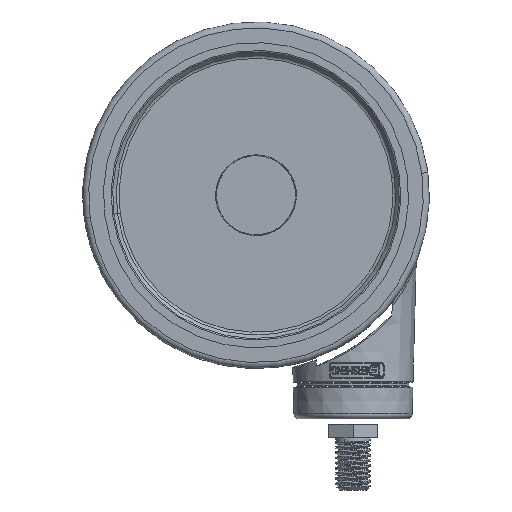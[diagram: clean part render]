
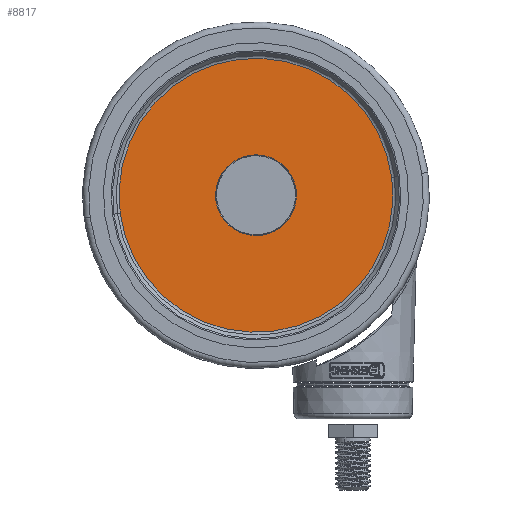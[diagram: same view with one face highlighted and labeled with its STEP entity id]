
A CAD part, front view. The second image highlights one B-rep face of the part: STEP entity #8817.
In plain terms, the highlighted planar face has unit normal (0, -1, 0).
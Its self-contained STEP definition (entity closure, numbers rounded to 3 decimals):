
#8591=CARTESIAN_POINT('',(0.,-28.25,0.));
#8592=DIRECTION('',(0.,1.,0.));
#8593=DIRECTION('',(-0.991,0.,-0.131));
#8594=AXIS2_PLACEMENT_3D('',#8591,#8592,#8593);
#8596=CARTESIAN_POINT('',(0.,-28.25,0.));
#8597=DIRECTION('',(0.,1.,0.));
#8598=DIRECTION('',(0.991,0.,0.131));
#8599=AXIS2_PLACEMENT_3D('',#8596,#8597,#8598);
#8601=CARTESIAN_POINT('',(0.,-28.25,0.));
#8602=DIRECTION('',(0.,1.,0.));
#8603=DIRECTION('',(-0.131,0.,0.991));
#8604=AXIS2_PLACEMENT_3D('',#8601,#8602,#8603);
#8606=CARTESIAN_POINT('',(0.,-28.25,0.));
#8607=DIRECTION('',(0.,1.,0.));
#8608=DIRECTION('',(0.131,0.,-0.991));
#8609=AXIS2_PLACEMENT_3D('',#8606,#8607,#8608);
#8768=CARTESIAN_POINT('',(-39.162,-28.25,-5.156));
#8769=CARTESIAN_POINT('',(39.162,-28.25,5.156));
#8770=VERTEX_POINT('',#8768);
#8771=VERTEX_POINT('',#8769);
#8776=CARTESIAN_POINT('',(-1.521,-28.25,11.55));
#8777=CARTESIAN_POINT('',(1.521,-28.25,-11.55));
#8778=VERTEX_POINT('',#8776);
#8779=VERTEX_POINT('',#8777);
#8800=CARTESIAN_POINT('',(0.,-28.25,0.));
#8801=DIRECTION('',(0.,1.,0.));
#8802=DIRECTION('',(0.991,0.,0.131));
#8803=AXIS2_PLACEMENT_3D('',#8800,#8801,#8802);
#8804=PLANE('',#8803);
#8806=ORIENTED_EDGE('',*,*,#8805,.T.);
#8808=ORIENTED_EDGE('',*,*,#8807,.T.);
#8809=EDGE_LOOP('',(#8806,#8808));
#8810=FACE_OUTER_BOUND('',#8809,.F.);
#8812=ORIENTED_EDGE('',*,*,#8811,.F.);
#8814=ORIENTED_EDGE('',*,*,#8813,.F.);
#8815=EDGE_LOOP('',(#8812,#8814));
#8816=FACE_BOUND('',#8815,.F.);
#8595=CIRCLE('',#8594,39.5);
#8600=CIRCLE('',#8599,39.5);
#8605=CIRCLE('',#8604,11.65);
#8610=CIRCLE('',#8609,11.65);
#8805=EDGE_CURVE('',#8770,#8771,#8595,.T.);
#8807=EDGE_CURVE('',#8771,#8770,#8600,.T.);
#8811=EDGE_CURVE('',#8778,#8779,#8605,.T.);
#8813=EDGE_CURVE('',#8779,#8778,#8610,.T.);
#8817=ADVANCED_FACE('',(#8810,#8816),#8804,.F.);
